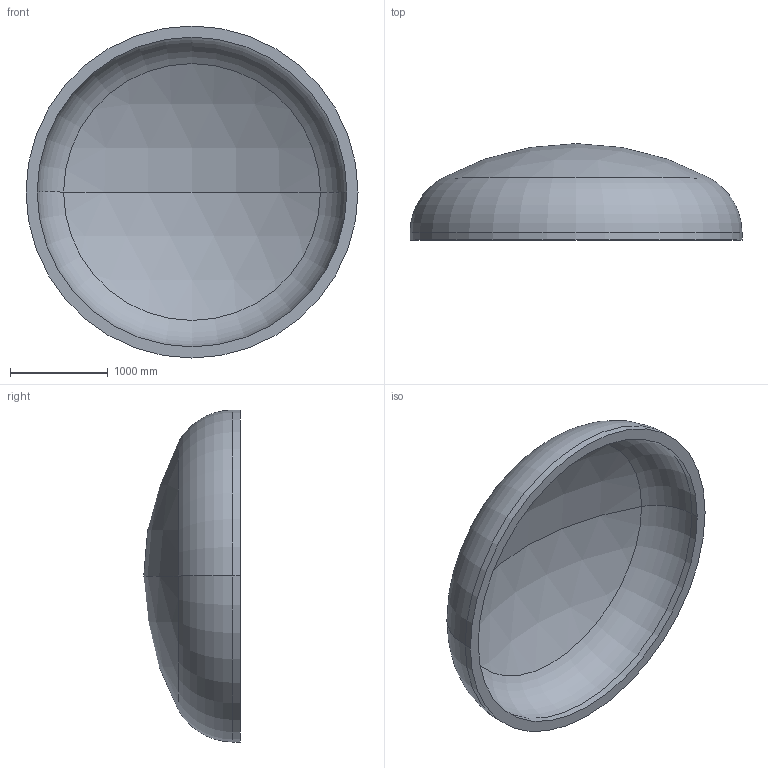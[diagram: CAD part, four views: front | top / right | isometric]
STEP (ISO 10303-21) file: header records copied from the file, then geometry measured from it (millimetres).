
FILE_DESCRIPTION (( 'STEP AP203' ), '1' );
FILE_NAME ('DIN 28013 Korbbogenform_-_Boden DIN 28013 - 3400 x 75 - I - s=114.step', '2016-07-01T19:57:08', ( '' ), ( '' ), 'SwSTEP 2.0', 'SolidWorks 2013', '' );
FILE_SCHEMA (( 'CONFIG_CONTROL_DESIGN' ));
Length unit declared in the file: millimetre
Products named in the file (1): DIN 28013 Korbbogenform_-_Boden DIN 28013 - 3400 x 75 - I - s=114
Bounding box: 3400 x 987.46 x 3400 mm (x, y, z)
Volume: 1461241100.6 mm3; surface area: 26839872.3 mm2
Topology: 1 solids, 1 shells, 13 faces, 24 edges, 14 vertices
Faces by surface type: torus 4, cylinder 4, sphere 4, plane 1
Entity records: 407 total; most frequent: DIRECTION 72, CARTESIAN_POINT 52, ORIENTED_EDGE 48, AXIS2_PLACEMENT_3D 34, EDGE_CURVE 24, CIRCLE 20, VERTEX_POINT 14, EDGE_LOOP 14
